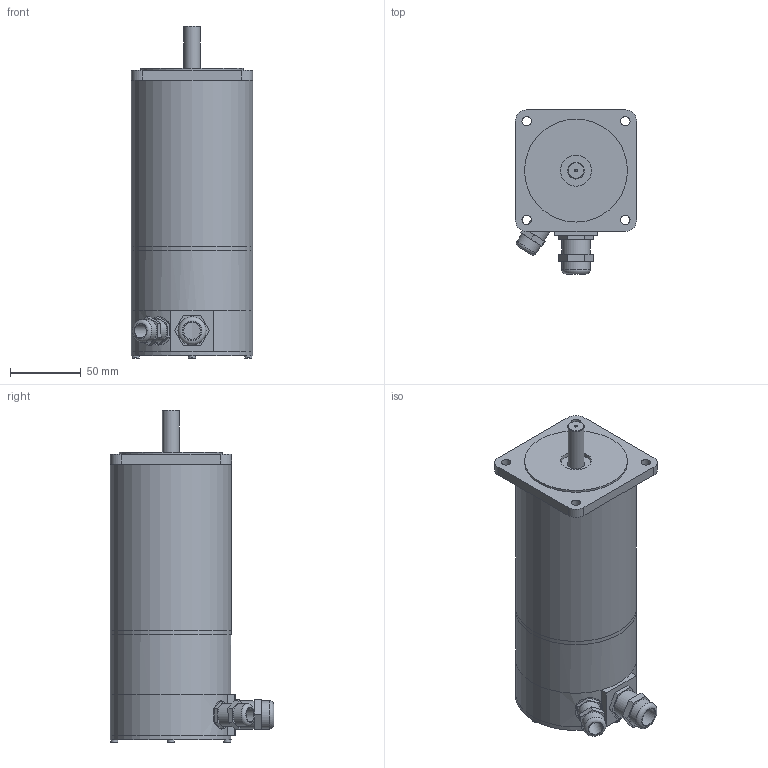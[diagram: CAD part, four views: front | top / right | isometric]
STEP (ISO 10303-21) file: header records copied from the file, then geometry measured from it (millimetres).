
FILE_DESCRIPTION((''),'2;1');
FILE_NAME('C:\Users\Reinhard\Documents\Inventor\Testschrittmotor\SM88\SM88.3-B-KV.stp','2012-11-12T20:35:02',('Reinhard'),(''),'Autodesk Inventor 2012','Autodesk Inventor 2012','');
FILE_SCHEMA(('CONFIG_CONTROL_DESIGN'));
Length unit declared in the file: millimetre
Products named in the file (1): SM88
Bounding box: 86 x 115.99 x 235.4 mm (x, y, z)
Volume: 218684 mm3; surface area: 148232.7 mm2
Topology: 2 solids, 3 shells, 142 faces, 317 edges, 205 vertices
Faces by surface type: plane 86, cylinder 49, cone 3, sphere 2, torus 2
Full cylindrical faces by diameter (mm): 2 x1, 5 x4, 6.6 x4, 10 x1, 12 x3, 13 x2, 15 x1, 16 x2, 18.376 x1, 20 x3, 22 x1, 73 x1, 78 x2, 82 x2, 86 x4
Entity records: 3824 total; most frequent: CARTESIAN_POINT 737, DIRECTION 653, ORIENTED_EDGE 540, EDGE_CURVE 270, AXIS2_PLACEMENT_3D 253, EDGE_LOOP 217, VERTEX_POINT 195, VECTOR 147
